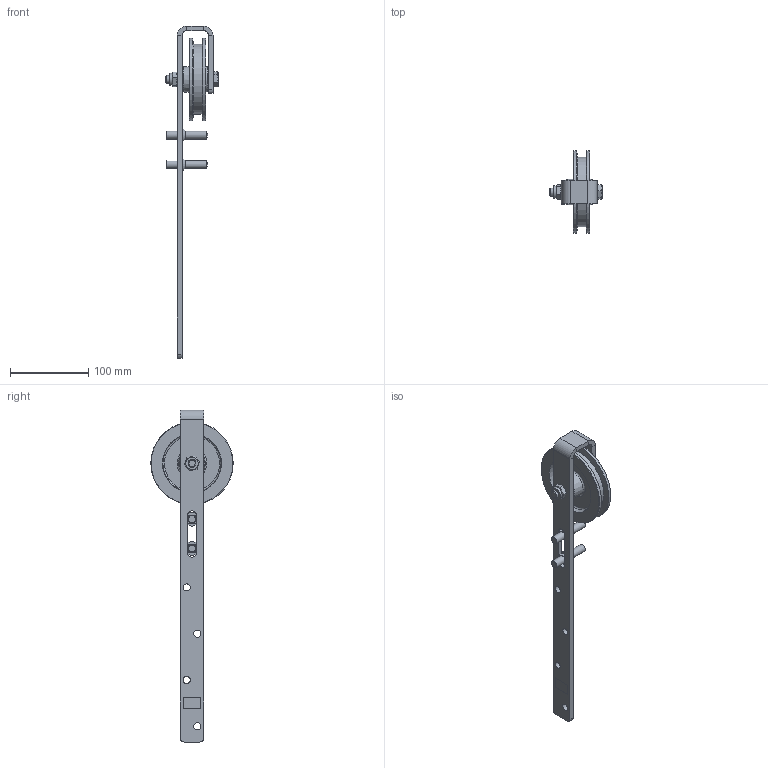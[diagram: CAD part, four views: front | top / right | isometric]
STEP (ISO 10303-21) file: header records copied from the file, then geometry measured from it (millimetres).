
FILE_DESCRIPTION(/* description */ ('Schiebetorrolle mit Buegel Ø105'),/* implementation_level */ '2;1');
FILE_NAME(/* name */ '010330144.iam.stp',/* time_stamp */ '2023-08-31T12:52:01+02:00',/* author */ ('Lesti'),/* organization */ (''),/* preprocessor_version */ 'ST-DEVELOPER v19.2',/* originating_system */ 'Autodesk Inventor 2023',/* authorisation */ '');
FILE_SCHEMA (('AUTOMOTIVE_DESIGN { 1 0 10303 214 3 1 1 }'));
Length unit declared in the file: millimetre
Products named in the file (7): 010330144; 010330128_02; 337000104; 011331037; DIN EN ISO 7040 - M10; DIN 931-1 - M10 x 60; 010330128_04
Assembly tree (15 placements, depth 2):
  010330144
    010330128_02
    337000104
    011331037  x2
    DIN EN ISO 7040 - M10
    DIN 931-1 - M10 x 60
    010330128_04  x9
Bounding box: 66.4 x 104.99 x 423 mm (x, y, z)
Volume: 209392.7 mm3; surface area: 86468.2 mm2
Topology: 15 solids, 15 shells, 209 faces, 456 edges, 289 vertices
Faces by surface type: plane 111, cylinder 41, bspline 28, cone 23, torus 6
Full cylindrical faces by diameter (mm): 5 x9, 8.376 x1, 9 x4, 10 x5, 10.5 x2, 15.6 x2, 18 x2, 20 x1, 89 x1, 105 x2
Entity records: 5354 total; most frequent: CARTESIAN_POINT 1252, ORIENTED_EDGE 792, DIRECTION 758, EDGE_CURVE 396, AXIS2_PLACEMENT_3D 273, VERTEX_POINT 252, LINE 212, VECTOR 212
